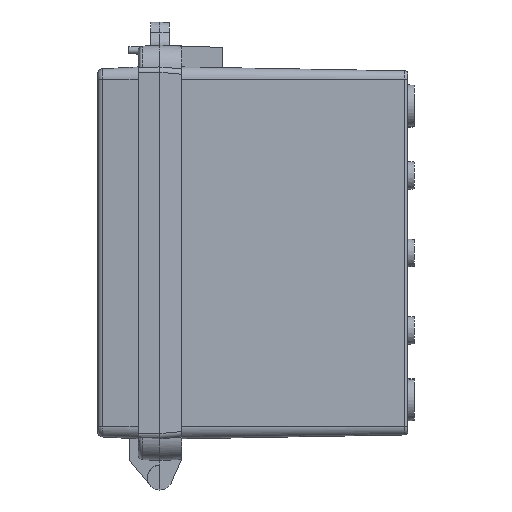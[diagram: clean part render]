
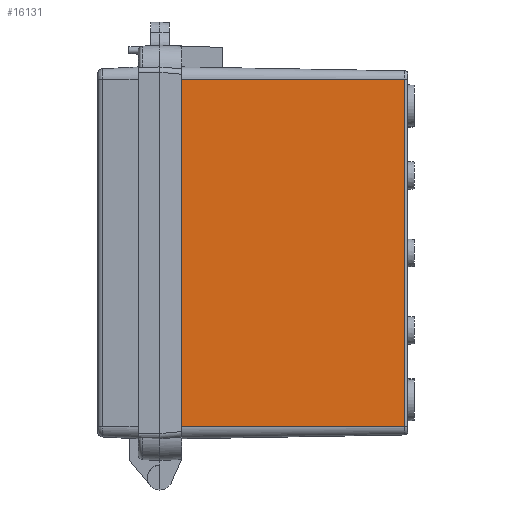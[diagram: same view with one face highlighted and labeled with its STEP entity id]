
A CAD part, left-side view. The second image highlights one B-rep face of the part: STEP entity #16131.
In plain terms, the highlighted planar face has unit normal (-1, -0.018, 0).
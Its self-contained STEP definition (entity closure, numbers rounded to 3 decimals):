
#56 = VECTOR ( 'NONE', #1015, 1000. ) ;
#100 = VECTOR ( 'NONE', #17789, 1000. ) ;
#408 = CARTESIAN_POINT ( 'NONE',  ( -85., -7., 41.25 ) ) ;
#588 = CARTESIAN_POINT ( 'NONE',  ( -85., -7., -1.25 ) ) ;
#903 = CARTESIAN_POINT ( 'NONE',  ( -85.07, -3., -61.817 ) ) ;
#910 = LINE ( 'NONE', #4617, #56 ) ;
#1015 = DIRECTION ( 'NONE',  ( -0.017, 0.999, -0.035 ) ) ;
#1041 = CARTESIAN_POINT ( 'NONE',  ( -85.07, -3., 41.11 ) ) ;
#1117 = VECTOR ( 'NONE', #14061, 1000. ) ;
#1183 = DIRECTION ( 'NONE',  ( -0.017, 1., 0. ) ) ;
#1213 = VERTEX_POINT ( 'NONE', #588 ) ;
#1255 = LINE ( 'NONE', #19101, #7143 ) ;
#1449 = VERTEX_POINT ( 'NONE', #14876 ) ;
#1642 = EDGE_CURVE ( 'NONE', #18501, #14962, #3655, .T. ) ;
#1768 = VERTEX_POINT ( 'NONE', #21652 ) ;
#1800 = EDGE_CURVE ( 'NONE', #14962, #1213, #2250, .T. ) ;
#2067 = LINE ( 'NONE', #11526, #20079 ) ;
#2104 = LINE ( 'NONE', #19811, #4359 ) ;
#2249 = CARTESIAN_POINT ( 'NONE',  ( -85.07, -3., -1.39 ) ) ;
#2250 = LINE ( 'NONE', #4016, #15850 ) ;
#2280 = DIRECTION ( 'NONE',  ( 0., 0., -1. ) ) ;
#2400 = ORIENTED_EDGE ( 'NONE', *, *, #8520, .T. ) ;
#2643 = EDGE_CURVE ( 'NONE', #19500, #15918, #18322, .T. ) ;
#2700 = CARTESIAN_POINT ( 'NONE',  ( -85., -7., 1.25 ) ) ;
#3061 = ORIENTED_EDGE ( 'NONE', *, *, #12809, .T. ) ;
#3062 = FACE_OUTER_BOUND ( 'NONE', #9592, .T. ) ;
#3271 = ORIENTED_EDGE ( 'NONE', *, *, #7649, .T. ) ;
#3613 = CARTESIAN_POINT ( 'NONE',  ( -85.07, -3., 56.07 ) ) ;
#3655 = LINE ( 'NONE', #16224, #21942 ) ;
#3770 = VERTEX_POINT ( 'NONE', #3613 ) ;
#3859 = EDGE_CURVE ( 'NONE', #1768, #1449, #8032, .T. ) ;
#3885 = CARTESIAN_POINT ( 'NONE',  ( -85., -7., -43.75 ) ) ;
#4016 = CARTESIAN_POINT ( 'NONE',  ( -85., -7., -61.817 ) ) ;
#4359 = VECTOR ( 'NONE', #10919, 1000. ) ;
#4471 = LINE ( 'NONE', #10044, #20821 ) ;
#4617 = CARTESIAN_POINT ( 'NONE',  ( -85.107, -0.893, -1.463 ) ) ;
#4772 = LINE ( 'NONE', #16979, #8937 ) ;
#5078 = VECTOR ( 'NONE', #19509, 1000. ) ;
#5256 = DIRECTION ( 'NONE',  ( 0.017, -0.999, -0.035 ) ) ;
#5419 = CARTESIAN_POINT ( 'NONE',  ( -85.005, -6.686, 43.761 ) ) ;
#5429 = DIRECTION ( 'NONE',  ( 0.017, -0.999, -0.035 ) ) ;
#5470 = ORIENTED_EDGE ( 'NONE', *, *, #1800, .T. ) ;
#5912 = VERTEX_POINT ( 'NONE', #1041 ) ;
#5947 = CARTESIAN_POINT ( 'NONE',  ( -85.07, -3., -56.07 ) ) ;
#6072 = DIRECTION ( 'NONE',  ( 0., 0., -1. ) ) ;
#6099 = CARTESIAN_POINT ( 'NONE',  ( -83.743, -79.017, -56.07 ) ) ;
#6264 = CARTESIAN_POINT ( 'NONE',  ( -85.07, -3., 1.39 ) ) ;
#6395 = EDGE_CURVE ( 'NONE', #1449, #16401, #11829, .T. ) ;
#6823 = ORIENTED_EDGE ( 'NONE', *, *, #3859, .T. ) ;
#6950 = VECTOR ( 'NONE', #5256, 1000. ) ;
#7143 = VECTOR ( 'NONE', #17104, 1000. ) ;
#7194 = EDGE_CURVE ( 'NONE', #22844, #19500, #2104, .T. ) ;
#7583 = VERTEX_POINT ( 'NONE', #22440 ) ;
#7649 = EDGE_CURVE ( 'NONE', #5912, #18501, #1255, .T. ) ;
#8032 = LINE ( 'NONE', #5419, #6950 ) ;
#8520 = EDGE_CURVE ( 'NONE', #13958, #19296, #17861, .T. ) ;
#8573 = CARTESIAN_POINT ( 'NONE',  ( -85., -7., -61.817 ) ) ;
#8937 = VECTOR ( 'NONE', #18673, 1000. ) ;
#9025 = CARTESIAN_POINT ( 'NONE',  ( -85.07, -3., -41.11 ) ) ;
#9567 = VECTOR ( 'NONE', #13122, 1000. ) ;
#9592 = EDGE_LOOP ( 'NONE', ( #2400, #21009, #15611, #20993, #6823, #21814, #11784, #3271, #14686, #5470, #15815, #19728, #22111, #11046, #3061, #21157 ) ) ;
#10044 = CARTESIAN_POINT ( 'NONE',  ( -85.07, -3., -61.817 ) ) ;
#10919 = DIRECTION ( 'NONE',  ( 0.017, -0.999, -0.035 ) ) ;
#11046 = ORIENTED_EDGE ( 'NONE', *, *, #2643, .T. ) ;
#11336 = VECTOR ( 'NONE', #16872, 1000. ) ;
#11526 = CARTESIAN_POINT ( 'NONE',  ( -85.07, -3., -61.817 ) ) ;
#11784 = ORIENTED_EDGE ( 'NONE', *, *, #19753, .T. ) ;
#11829 = LINE ( 'NONE', #14478, #16817 ) ;
#11927 = DIRECTION ( 'NONE',  ( -1., -0.017, 0. ) ) ;
#12083 = DIRECTION ( 'NONE',  ( 0.017, -1., 0. ) ) ;
#12358 = LINE ( 'NONE', #19709, #100 ) ;
#12645 = VERTEX_POINT ( 'NONE', #18429 ) ;
#12809 = EDGE_CURVE ( 'NONE', #15918, #7583, #12358, .T. ) ;
#13122 = DIRECTION ( 'NONE',  ( 0.017, -1., 0. ) ) ;
#13367 = EDGE_CURVE ( 'NONE', #3770, #1768, #2067, .T. ) ;
#13577 = LINE ( 'NONE', #903, #11336 ) ;
#13958 = VERTEX_POINT ( 'NONE', #20399 ) ;
#13988 = EDGE_CURVE ( 'NONE', #1213, #18391, #910, .T. ) ;
#14061 = DIRECTION ( 'NONE',  ( 0., 0., -1. ) ) ;
#14077 = LINE ( 'NONE', #15378, #21818 ) ;
#14478 = CARTESIAN_POINT ( 'NONE',  ( -85., -7., -61.817 ) ) ;
#14686 = ORIENTED_EDGE ( 'NONE', *, *, #1642, .T. ) ;
#14876 = CARTESIAN_POINT ( 'NONE',  ( -85., -7., 43.75 ) ) ;
#14962 = VERTEX_POINT ( 'NONE', #2700 ) ;
#15378 = CARTESIAN_POINT ( 'NONE',  ( -85.07, -3., 56.07 ) ) ;
#15611 = ORIENTED_EDGE ( 'NONE', *, *, #19113, .T. ) ;
#15663 = EDGE_CURVE ( 'NONE', #18391, #22844, #4471, .T. ) ;
#15815 = ORIENTED_EDGE ( 'NONE', *, *, #13988, .T. ) ;
#15850 = VECTOR ( 'NONE', #16540, 1000. ) ;
#15918 = VERTEX_POINT ( 'NONE', #3885 ) ;
#16131 = ADVANCED_FACE ( 'NONE', ( #3062 ), #22551, .T. ) ;
#16224 = CARTESIAN_POINT ( 'NONE',  ( -85.031, -5.204, 1.313 ) ) ;
#16401 = VERTEX_POINT ( 'NONE', #408 ) ;
#16540 = DIRECTION ( 'NONE',  ( 0., 0., -1. ) ) ;
#16817 = VECTOR ( 'NONE', #2280, 1000. ) ;
#16872 = DIRECTION ( 'NONE',  ( 0., 0., -1. ) ) ;
#16929 = AXIS2_PLACEMENT_3D ( 'NONE', #17426, #11927, #12083 ) ;
#16979 = CARTESIAN_POINT ( 'NONE',  ( -83.743, -79.017, -61.817 ) ) ;
#17066 = CARTESIAN_POINT ( 'NONE',  ( -85., -7., -41.25 ) ) ;
#17104 = DIRECTION ( 'NONE',  ( 0., 0., -1. ) ) ;
#17426 = CARTESIAN_POINT ( 'NONE',  ( -85.07, -3., -61.817 ) ) ;
#17738 = CARTESIAN_POINT ( 'NONE',  ( -85.132, 0.589, 40.985 ) ) ;
#17789 = DIRECTION ( 'NONE',  ( -0.017, 0.999, -0.035 ) ) ;
#17815 = LINE ( 'NONE', #17738, #5078 ) ;
#17861 = LINE ( 'NONE', #5947, #9567 ) ;
#18322 = LINE ( 'NONE', #8573, #1117 ) ;
#18391 = VERTEX_POINT ( 'NONE', #2249 ) ;
#18429 = CARTESIAN_POINT ( 'NONE',  ( -83.743, -79.017, 56.07 ) ) ;
#18501 = VERTEX_POINT ( 'NONE', #6264 ) ;
#18673 = DIRECTION ( 'NONE',  ( 0., 0., 1. ) ) ;
#19014 = DIRECTION ( 'NONE',  ( 0., 0., -1. ) ) ;
#19101 = CARTESIAN_POINT ( 'NONE',  ( -85.07, -3., -61.817 ) ) ;
#19113 = EDGE_CURVE ( 'NONE', #12645, #3770, #14077, .T. ) ;
#19296 = VERTEX_POINT ( 'NONE', #6099 ) ;
#19500 = VERTEX_POINT ( 'NONE', #17066 ) ;
#19509 = DIRECTION ( 'NONE',  ( -0.017, 0.999, -0.035 ) ) ;
#19709 = CARTESIAN_POINT ( 'NONE',  ( -85.081, -2.375, -43.912 ) ) ;
#19728 = ORIENTED_EDGE ( 'NONE', *, *, #15663, .T. ) ;
#19753 = EDGE_CURVE ( 'NONE', #16401, #5912, #17815, .T. ) ;
#19811 = CARTESIAN_POINT ( 'NONE',  ( -85.057, -3.722, -41.136 ) ) ;
#20079 = VECTOR ( 'NONE', #6072, 1000. ) ;
#20399 = CARTESIAN_POINT ( 'NONE',  ( -85.07, -3., -56.07 ) ) ;
#20500 = EDGE_CURVE ( 'NONE', #19296, #12645, #4772, .T. ) ;
#20821 = VECTOR ( 'NONE', #19014, 1000. ) ;
#20993 = ORIENTED_EDGE ( 'NONE', *, *, #13367, .T. ) ;
#21009 = ORIENTED_EDGE ( 'NONE', *, *, #20500, .T. ) ;
#21157 = ORIENTED_EDGE ( 'NONE', *, *, #22075, .T. ) ;
#21652 = CARTESIAN_POINT ( 'NONE',  ( -85.07, -3., 43.89 ) ) ;
#21814 = ORIENTED_EDGE ( 'NONE', *, *, #6395, .T. ) ;
#21818 = VECTOR ( 'NONE', #1183, 1000. ) ;
#21942 = VECTOR ( 'NONE', #5429, 1000. ) ;
#22075 = EDGE_CURVE ( 'NONE', #7583, #13958, #13577, .T. ) ;
#22111 = ORIENTED_EDGE ( 'NONE', *, *, #7194, .T. ) ;
#22440 = CARTESIAN_POINT ( 'NONE',  ( -85.07, -3., -43.89 ) ) ;
#22551 = PLANE ( 'NONE',  #16929 ) ;
#22844 = VERTEX_POINT ( 'NONE', #9025 ) ;
